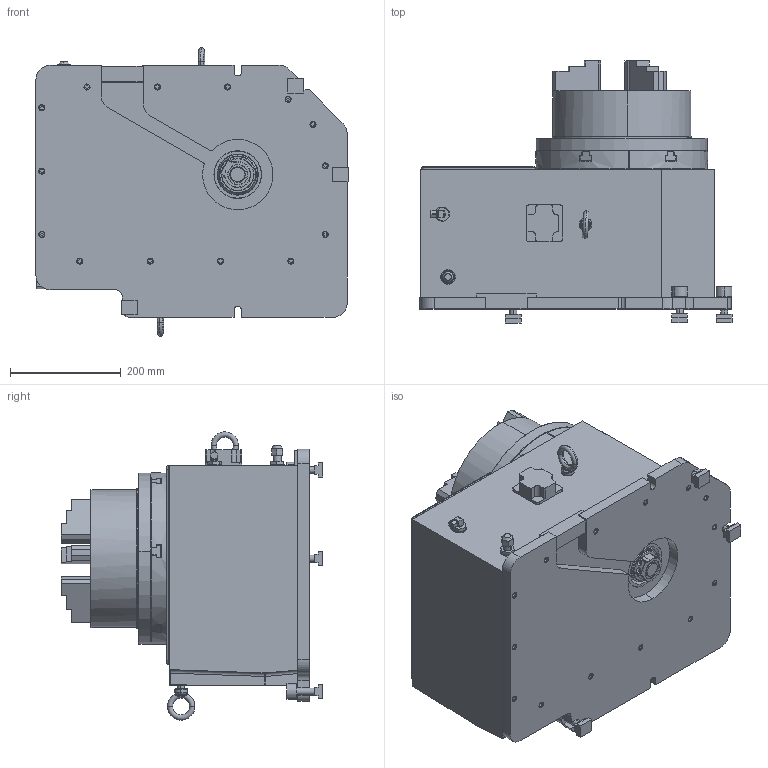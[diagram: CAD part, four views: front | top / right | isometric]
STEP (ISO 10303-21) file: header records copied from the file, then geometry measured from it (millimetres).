
FILE_DESCRIPTION (( 'STEP AP203' ), '1' );
FILE_NAME ('HRT310SS-BM Defeatured.STEP', '2026-03-10T18:33:59', ( '' ), ( '' ), 'SwSTEP 2.0', 'SolidWorks 2023', '' );
FILE_SCHEMA (( 'CONFIG_CONTROL_DESIGN' ));
Length unit declared in the file: inch
Products named in the file (8): Air Provision; 10in Chuck; Platter; Anchor points; Base; HRT310SS-BM Defeatured; Oil Sealing Tube; Body
Assembly tree (7 placements, depth 2):
  HRT310SS-BM Defeatured
    Base
    Anchor points
    Platter
    10in Chuck
    Air Provision
    Body
    Oil Sealing Tube
Bounding box: 563.31 x 472.93 x 520.57 mm (x, y, z)
Volume: 62068208.8 mm3; surface area: 2866394.6 mm2
Topology: 48 solids, 56 shells, 2722 faces, 6394 edges, 4026 vertices
Faces by surface type: plane 1282, cylinder 704, cone 479, bspline 198, torus 48, sphere 11
Entity records: 83863 total; most frequent: CARTESIAN_POINT 21122, ORIENTED_EDGE 12728, DIRECTION 12703, EDGE_CURVE 6364, AXIS2_PLACEMENT_3D 4568, VERTEX_POINT 4025, VECTOR 3567, LINE 3567
